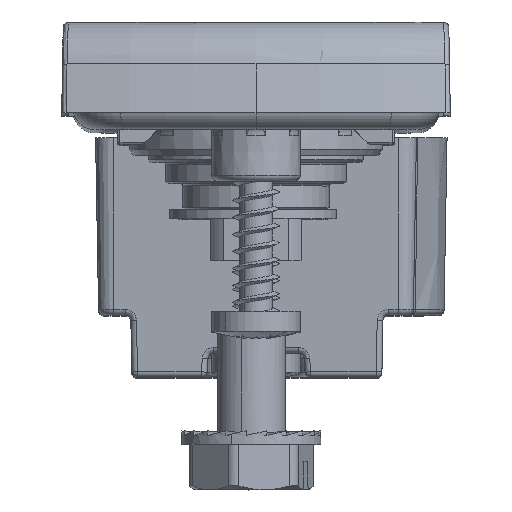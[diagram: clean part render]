
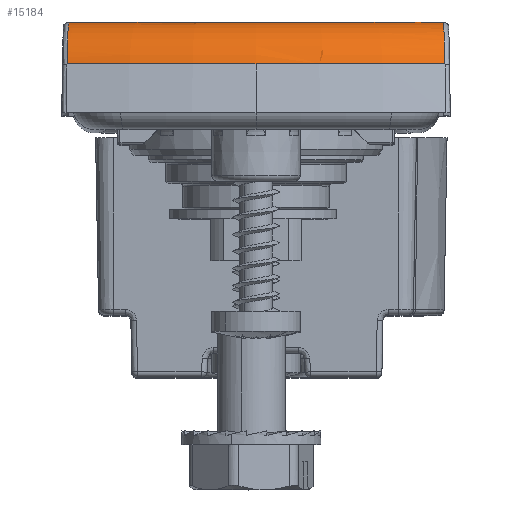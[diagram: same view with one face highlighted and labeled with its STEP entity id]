
A CAD part, top view. The second image highlights one B-rep face of the part: STEP entity #15184.
In plain terms, the highlighted toroidal (fillet/blend) face has major radius 74.02 mm and minor radius 5 mm.
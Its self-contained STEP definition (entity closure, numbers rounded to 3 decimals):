
#137 = CARTESIAN_POINT ( 'NONE',  ( -16.532, 7.902, 168.169 ) ) ;
#204 = EDGE_LOOP ( 'NONE', ( #15255, #40484, #4775, #10112, #16407 ) ) ;
#472 = CARTESIAN_POINT ( 'NONE',  ( -16.547, 7.742, 168.772 ) ) ;
#2593 = B_SPLINE_CURVE_WITH_KNOTS ( 'NONE', 3,
 ( #24930, #44855, #15791, #137, #20014, #39965, #59859, #30810, #15138, #50706, #54955, #472, #30147, #50059, #45195, #20354, #40286, #60173, #15458, #10583, #47108, #55934, #56251, #46157, #17398, #41270, #51682 ),
 .UNSPECIFIED., .F., .F.,
 ( 4, 2, 2, 1, 1, 1, 2, 2, 2, 2, 1, 1, 2, 2, 2, 4 ),
 ( 0., 0.125, 0.187, 0.219, 0.234, 0.242, 0.246, 0.25, 0.375, 0.437, 0.469, 0.484, 0.492, 0.5, 0.75, 1. ),
 .UNSPECIFIED. ) ;
#4421 = CARTESIAN_POINT ( 'NONE',  ( 16.599, 6.753, 170.522 ) ) ;
#4775 = ORIENTED_EDGE ( 'NONE', *, *, #39578, .F. ) ;
#7578 = EDGE_CURVE ( 'NONE', #8569, #17691, #35874, .T. ) ;
#8348 = CARTESIAN_POINT ( 'NONE',  ( 16.576, 7.276, 169.811 ) ) ;
#8569 = VERTEX_POINT ( 'NONE', #38843 ) ;
#8671 = CARTESIAN_POINT ( 'NONE',  ( 16.549, 7.725, 168.822 ) ) ;
#9311 = CARTESIAN_POINT ( 'NONE',  ( 16.608, 6.511, 170.783 ) ) ;
#10112 = ORIENTED_EDGE ( 'NONE', *, *, #7578, .T. ) ;
#10583 = CARTESIAN_POINT ( 'NONE',  ( -16.588, 7.019, 170.186 ) ) ;
#10584 = CARTESIAN_POINT ( 'NONE',  ( 0., 8., 95. ) ) ;
#11952 = CARTESIAN_POINT ( 'NONE',  ( 16.669, 4.294, 172.067 ) ) ;
#14500 = CARTESIAN_POINT ( 'NONE',  ( 16.562, 7.529, 169.321 ) ) ;
#14829 = CARTESIAN_POINT ( 'NONE',  ( 16.536, 7.887, 168.333 ) ) ;
#15119 = DIRECTION ( 'NONE',  ( 1., 0., 0. ) ) ;
#15138 = CARTESIAN_POINT ( 'NONE',  ( -16.546, 7.755, 168.731 ) ) ;
#15184 = ADVANCED_FACE ( 'NONE', ( #52774 ), #56126, .T. ) ;
#15255 = ORIENTED_EDGE ( 'NONE', *, *, #39289, .T. ) ;
#15458 = CARTESIAN_POINT ( 'NONE',  ( -16.587, 7.048, 170.146 ) ) ;
#15791 = CARTESIAN_POINT ( 'NONE',  ( -16.522, 7.972, 167.762 ) ) ;
#15899 = EDGE_CURVE ( 'NONE', #16757, #30917, #29422, .T. ) ;
#16407 = ORIENTED_EDGE ( 'NONE', *, *, #61109, .F. ) ;
#16757 = VERTEX_POINT ( 'NONE', #34062 ) ;
#17398 = CARTESIAN_POINT ( 'NONE',  ( -16.646, 5.302, 171.707 ) ) ;
#17691 = VERTEX_POINT ( 'NONE', #29713 ) ;
#18748 = CARTESIAN_POINT ( 'NONE',  ( 16.59, 6.968, 170.256 ) ) ;
#19066 = CARTESIAN_POINT ( 'NONE',  ( 16.522, 8., 167.784 ) ) ;
#19708 = CARTESIAN_POINT ( 'NONE',  ( 16.583, 7.132, 170.036 ) ) ;
#20014 = CARTESIAN_POINT ( 'NONE',  ( -16.535, 7.874, 168.299 ) ) ;
#20354 = CARTESIAN_POINT ( 'NONE',  ( -16.576, 7.275, 169.801 ) ) ;
#20625 = CIRCLE ( 'NONE', #58178, 78.849 ) ;
#22380 = CIRCLE ( 'NONE', #51588, 74.02 ) ;
#23661 = CARTESIAN_POINT ( 'NONE',  ( 16.554, 7.652, 169.026 ) ) ;
#24930 = CARTESIAN_POINT ( 'NONE',  ( -16.509, 8., 167.155 ) ) ;
#26236 = DIRECTION ( 'NONE',  ( 1., 0., 0. ) ) ;
#27424 = DIRECTION ( 'NONE',  ( 0., -1., 0. ) ) ;
#28242 = CARTESIAN_POINT ( 'NONE',  ( 16.646, 5.3, 171.708 ) ) ;
#28564 = CARTESIAN_POINT ( 'NONE',  ( 16.548, 7.735, 168.795 ) ) ;
#29422 = CIRCLE ( 'NONE', #37779, 78.849 ) ;
#29528 = CARTESIAN_POINT ( 'NONE',  ( 16.551, 7.696, 168.908 ) ) ;
#29713 = CARTESIAN_POINT ( 'NONE',  ( 16.509, 8., 167.155 ) ) ;
#30147 = CARTESIAN_POINT ( 'NONE',  ( -16.555, 7.648, 169.058 ) ) ;
#30810 = CARTESIAN_POINT ( 'NONE',  ( -16.545, 7.771, 168.68 ) ) ;
#30917 = VERTEX_POINT ( 'NONE', #31645 ) ;
#31645 = CARTESIAN_POINT ( 'NONE',  ( -16.669, 4.294, 172.067 ) ) ;
#32821 = DIRECTION ( 'NONE',  ( -1., 0., 0. ) ) ;
#34062 = CARTESIAN_POINT ( 'NONE',  ( 0., 4.294, 173.849 ) ) ;
#34409 = CARTESIAN_POINT ( 'NONE',  ( 16.549, 7.717, 168.848 ) ) ;
#35874 = B_SPLINE_CURVE_WITH_KNOTS ( 'NONE', 3,
 ( #11952, #43292, #28242, #44554, #39020, #9311, #39341, #4421, #58588, #64456, #59554, #58920, #18748, #19708, #8348, #53709, #14500, #48152, #23661, #29528, #34409, #8671, #39662, #28564, #14829, #19066, #48786 ),
 .UNSPECIFIED., .F., .F.,
 ( 4, 2, 2, 2, 1, 1, 2, 2, 2, 2, 1, 1, 1, 2, 2, 4 ),
 ( 0., 0.25, 0.375, 0.438, 0.469, 0.484, 0.492, 0.5, 0.625, 0.688, 0.719, 0.734, 0.742, 0.746, 0.75, 1. ),
 .UNSPECIFIED. ) ;
#37779 = AXIS2_PLACEMENT_3D ( 'NONE', #56802, #27424, #47344 ) ;
#38843 = CARTESIAN_POINT ( 'NONE',  ( 16.669, 4.294, 172.067 ) ) ;
#39020 = CARTESIAN_POINT ( 'NONE',  ( 16.619, 6.205, 171.074 ) ) ;
#39289 = EDGE_CURVE ( 'NONE', #52770, #30917, #2593, .T. ) ;
#39341 = CARTESIAN_POINT ( 'NONE',  ( 16.605, 6.61, 170.682 ) ) ;
#39578 = EDGE_CURVE ( 'NONE', #8569, #16757, #20625, .T. ) ;
#39662 = CARTESIAN_POINT ( 'NONE',  ( 16.548, 7.731, 168.805 ) ) ;
#39965 = CARTESIAN_POINT ( 'NONE',  ( -16.54, 7.827, 168.486 ) ) ;
#40286 = CARTESIAN_POINT ( 'NONE',  ( -16.581, 7.168, 169.97 ) ) ;
#40484 = ORIENTED_EDGE ( 'NONE', *, *, #15899, .F. ) ;
#41270 = CARTESIAN_POINT ( 'NONE',  ( -16.658, 4.803, 171.93 ) ) ;
#43292 = CARTESIAN_POINT ( 'NONE',  ( 16.658, 4.802, 171.93 ) ) ;
#44136 = CARTESIAN_POINT ( 'NONE',  ( -16.509, 8., 167.155 ) ) ;
#44554 = CARTESIAN_POINT ( 'NONE',  ( 16.626, 5.986, 171.248 ) ) ;
#44855 = CARTESIAN_POINT ( 'NONE',  ( -16.515, 8., 167.468 ) ) ;
#45195 = CARTESIAN_POINT ( 'NONE',  ( -16.573, 7.343, 169.684 ) ) ;
#46157 = CARTESIAN_POINT ( 'NONE',  ( -16.62, 6.218, 171.092 ) ) ;
#47108 = CARTESIAN_POINT ( 'NONE',  ( -16.589, 7., 170.212 ) ) ;
#47344 = DIRECTION ( 'NONE',  ( -1., 0., 0. ) ) ;
#48148 = CARTESIAN_POINT ( 'NONE',  ( 0., 4.294, 95. ) ) ;
#48152 = CARTESIAN_POINT ( 'NONE',  ( 16.557, 7.612, 169.125 ) ) ;
#48786 = CARTESIAN_POINT ( 'NONE',  ( 16.509, 8., 167.155 ) ) ;
#49711 = DIRECTION ( 'NONE',  ( 0., -1., 0. ) ) ;
#50059 = CARTESIAN_POINT ( 'NONE',  ( -16.562, 7.535, 169.319 ) ) ;
#50706 = CARTESIAN_POINT ( 'NONE',  ( -16.547, 7.749, 168.752 ) ) ;
#51028 = DIRECTION ( 'NONE',  ( 0., 1., 0. ) ) ;
#51588 = AXIS2_PLACEMENT_3D ( 'NONE', #10584, #51028, #26236 ) ;
#51682 = CARTESIAN_POINT ( 'NONE',  ( -16.669, 4.294, 172.067 ) ) ;
#52770 = VERTEX_POINT ( 'NONE', #44136 ) ;
#52774 = FACE_OUTER_BOUND ( 'NONE', #204, .T. ) ;
#53085 = CARTESIAN_POINT ( 'NONE',  ( 0., 3., 95. ) ) ;
#53709 = CARTESIAN_POINT ( 'NONE',  ( 16.566, 7.468, 169.447 ) ) ;
#54955 = CARTESIAN_POINT ( 'NONE',  ( -16.547, 7.744, 168.766 ) ) ;
#55934 = CARTESIAN_POINT ( 'NONE',  ( -16.589, 6.992, 170.224 ) ) ;
#56126 = TOROIDAL_SURFACE ( 'NONE', #58214, 74.02, 5. ) ;
#56251 = CARTESIAN_POINT ( 'NONE',  ( -16.605, 6.635, 170.701 ) ) ;
#56802 = CARTESIAN_POINT ( 'NONE',  ( 0., 4.294, 95. ) ) ;
#58178 = AXIS2_PLACEMENT_3D ( 'NONE', #48148, #62526, #32821 ) ;
#58214 = AXIS2_PLACEMENT_3D ( 'NONE', #53085, #49711, #15119 ) ;
#58588 = CARTESIAN_POINT ( 'NONE',  ( 16.596, 6.822, 170.441 ) ) ;
#58920 = CARTESIAN_POINT ( 'NONE',  ( 16.591, 6.956, 170.271 ) ) ;
#59554 = CARTESIAN_POINT ( 'NONE',  ( 16.592, 6.934, 170.3 ) ) ;
#59859 = CARTESIAN_POINT ( 'NONE',  ( -16.542, 7.802, 168.578 ) ) ;
#60173 = CARTESIAN_POINT ( 'NONE',  ( -16.584, 7.114, 170.053 ) ) ;
#61109 = EDGE_CURVE ( 'NONE', #52770, #17691, #22380, .T. ) ;
#62526 = DIRECTION ( 'NONE',  ( 0., -1., 0. ) ) ;
#64456 = CARTESIAN_POINT ( 'NONE',  ( 16.593, 6.901, 170.343 ) ) ;
